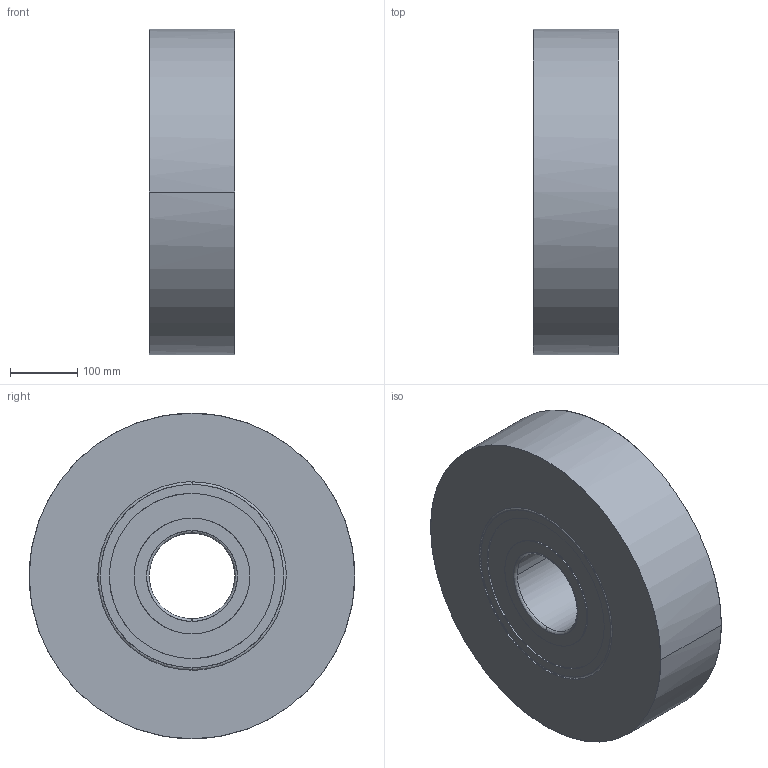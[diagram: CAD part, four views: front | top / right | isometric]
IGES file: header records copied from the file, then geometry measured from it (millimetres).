
Global section: native system: Kubotek KeyCreator; preprocessor: KCM Version 1.1.1442.0; author: KeyCreator User; organization: Self; date: 20170714.090026; units: inch
Bounding box: 127 x 482.6 x 482.6 mm (x, y, z)
Surface area: 599708.2 mm2 (no closed solid volume)
Topology: 0 solids, 0 shells, 32 faces, 208 edges, 208 vertices
Faces by surface type: bspline 32
